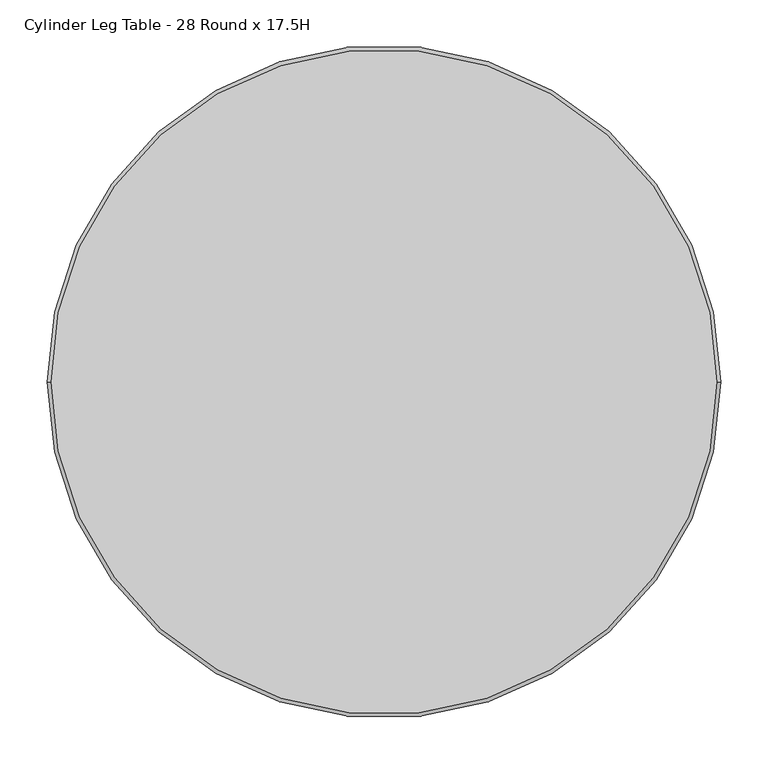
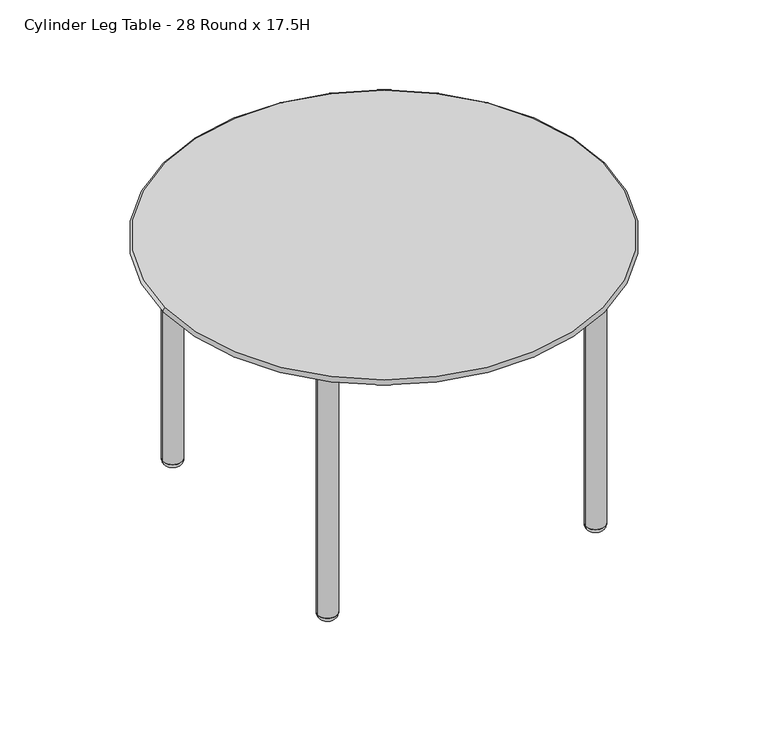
"""IFC4 building model written with IfcOpenShell, lengths in millimetres: furniture geometry, Integra - Coastal Collection - Coastal Metal Tables - Freestanding Table : Cylinder Leg Table - 28 Round x 17.5H."""

from ifc_helpers import new_model, si_unit, point, frame, frame_2d, origin, origin_2d, place, context, project, spatial, circle_curve, ellipse_curve, trimmed, segment, composite_curve, outline, extrude, source, transform, mapped, element, save
from ifc_brep_helpers import plane_surface, revolved_surface, advanced_brep


def cylinder_leg_table_28_round_x_17_5h_023fe422(model_context):
    return source(origin(), model_context, "Body", "SolidModel", [
        advanced_brep(
        [(-330.184015, 0.0, 431.7999939), (330.184015, 0.0, 431.7999939), (351.6380192, 0.0, 444.5), (-351.6380192, 0.0, 444.5), (353.3187402, 0.0, 436.9501969), (-353.3187402, 0.0, 436.9501969)],
        [
            (0, 1, circle_curve(frame((0.0, 0.0, 431.7999939), z_axis=(0.0, 0.0, -1.0), x_axis=(1.0, 0.0, 0.0)), 330.184015)),
            (1, 0, circle_curve(frame((0.0, 0.0, 431.7999939), z_axis=(0.0, 0.0, -1.0), x_axis=(-1.0, 0.0, 0.0)), 330.184015)),
            (2, 3, circle_curve(frame((0.0, 0.0, 444.5), z_axis=(0.0, 0.0, 1.0), x_axis=(1.0, 0.0, 0.0)), 351.6380192)),
            (3, 2, circle_curve(frame((0.0, 0.0, 444.5), z_axis=(0.0, 0.0, 1.0), x_axis=(-1.0, 0.0, 0.0)), 351.6380192)),
            (2, 4, circle_curve(frame((351.6380192, 0.0, 440.5380192), z_axis=(0.0, 1.0, 0.0), x_axis=(-1.0, 0.0, 0.0)), 3.9619808)),
            (4, 5, circle_curve(frame((0.0, 0.0, 436.9501969), z_axis=(0.0, 0.0, 1.0), x_axis=(1.0, 0.0, 0.0)), 353.3187402)),
            (5, 3, circle_curve(frame((-351.6380192, 0.0, 440.5380192), z_axis=(0.0, 1.0, 0.0), x_axis=(1.0, 0.0, 0.0)), 3.9619808)),
            (4, 1, circle_curve(frame((330.184015, 0.0, 486.3357186), z_axis=(0.0, 1.0, 0.0), x_axis=(-1.0, 0.0, 0.0)), 54.5357246)),
            (0, 5, circle_curve(frame((-330.184015, 0.0, 486.3357186), z_axis=(0.0, 1.0, 0.0), x_axis=(1.0, 0.0, 0.0)), 54.5357246)),
            (5, 4, circle_curve(frame((0.0, 0.0, 436.9501969), z_axis=(0.0, 0.0, 1.0), x_axis=(-1.0, 0.0, 0.0)), 353.3187402)),
        ],
        [
            plane_surface(frame((-25.4, 0.0, 431.7999939), z_axis=(0.0, 0.0, -1.0), x_axis=(0.0, 1.0, 0.0))),
            plane_surface(frame((-25.4, 0.0, 444.5), z_axis=(0.0, 0.0, 1.0), x_axis=(0.0, -1.0, 0.0))),
            revolved_surface(trimmed(ellipse_curve(frame((351.6380192, 0.0, 440.5380192), z_axis=(0.0, -1.0, 0.0), x_axis=(-1.0, 0.0, 0.0)), 3.9619808, 3.9619808), [point((353.3187402, 0.0, 436.9501969))], [point((351.6380192, 0.0, 444.5))], True, "CARTESIAN"), (0.0, 0.0, 444.5), (0.0, 0.0, 1.0)),
            revolved_surface(trimmed(ellipse_curve(frame((330.184015, 0.0, 486.3357186), z_axis=(0.0, -1.0, 0.0), x_axis=(-1.0, 0.0, 0.0)), 54.5357246, 54.5357246), [point((330.184015, 0.0, 431.7999939))], [point((353.3187402, 0.0, 436.9501969))], True, "CARTESIAN"), (0.0, 0.0, 444.5), (0.0, 0.0, 1.0)),
            revolved_surface(trimmed(ellipse_curve(frame((-351.6380192, 0.0, 440.5380192), z_axis=(0.0, 1.0, 0.0), x_axis=(1.0, 0.0, 0.0)), 3.9619808, 3.9619808), [point((-353.3187402, 0.0, 436.9501969))], [point((-351.6380192, 0.0, 444.5))], True, "CARTESIAN"), (0.0, 0.0, 444.5), (0.0, 0.0, 1.0)),
            revolved_surface(trimmed(ellipse_curve(frame((-330.184015, 0.0, 486.3357186), z_axis=(0.0, 1.0, 0.0), x_axis=(1.0, 0.0, 0.0)), 54.5357246, 54.5357246), [point((-330.184015, 0.0, 431.7999939))], [point((-353.3187402, 0.0, 436.9501969))], True, "CARTESIAN"), (0.0, 0.0, 444.5), (0.0, 0.0, 1.0)),
        ],
        [
            (0, [[1, 2]]),
            (1, [[3, 4]]),
            (2, [[-3, 5, 6, 7]]),
            (3, [[-6, 8, -1, 9]]),
            (4, [[-5, -4, -7, 10]]),
            (5, [[-8, -10, -9, -2]]),
        ],
    ),
        extrude(outline(composite_curve([segment(trimmed(circle_curve(origin_2d(), 330.2), [point((-330.2, 0.0))], [point((330.2, 0.0))], False, "CARTESIAN"), True, "CONTINUOUS"), segment(trimmed(circle_curve(origin_2d(), 330.2), [point((330.2, 0.0))], [point((-330.2, 0.0))], False, "CARTESIAN"), True, "CONTINUOUS")], self_intersect=False)), frame((0.0, 0.0, 425.4499939), z_axis=(0.0, 0.0, 1.0), x_axis=(1.0, 0.0, 0.0)), (0.0, 0.0, 1.0), 6.35),
        advanced_brep(
        [(-231.1705408, 215.5261469, 9.5239742), (-199.881753, 215.5261469, 9.5239742), (-215.5261469, 215.5261469, 9.5239742), (-221.6455408, 215.5261469, -0.0010258), (-209.406753, 215.5261469, -0.0010258), (-215.5261469, 215.5261469, -0.0010258)],
        [
            (0, 1, circle_curve(frame((-215.5261469, 215.5261469, 9.5239742), z_axis=(0.0, 0.0, 1.0), x_axis=(1.0, 0.0, 0.0)), 15.6443939)),
            (1, 2),
            (2, 0),
            (1, 0, circle_curve(frame((-215.5261469, 215.5261469, 9.5239742), z_axis=(0.0, 0.0, 1.0), x_axis=(1.0, 0.0, 0.0)), 15.6443939)),
            (3, 4, circle_curve(frame((-215.5261469, 215.5261469, -0.0010258), z_axis=(0.0, 0.0, 1.0), x_axis=(1.0, 0.0, 0.0)), 6.1193939)),
            (4, 1, circle_curve(frame((-209.406753, 215.5261469, 9.5239742), z_axis=(0.0, -1.0, 0.0), x_axis=(1.0, 0.0, 0.0)), 9.525)),
            (0, 3, circle_curve(frame((-221.6455408, 215.5261469, 9.5239742), z_axis=(0.0, -1.0, 0.0), x_axis=(-1.0, 0.0, 0.0)), 9.525)),
            (4, 3, circle_curve(frame((-215.5261469, 215.5261469, -0.0010258), z_axis=(0.0, 0.0, 1.0), x_axis=(1.0, 0.0, 0.0)), 6.1193939)),
            (5, 4),
            (3, 5),
        ],
        [
            plane_surface(frame((-215.5261469, 215.5261469, 9.5239742), z_axis=(0.0, 0.0, 1.0), x_axis=(1.0, 0.0, 0.0))),
            revolved_surface(trimmed(ellipse_curve(frame((-209.406753, 215.5261469, 9.5239742), z_axis=(0.0, 1.0, 0.0), x_axis=(1.0, 0.0, 0.0)), 9.525, 9.525), [point((-199.881753, 215.5261469, 9.5239742))], [point((-209.406753, 215.5261469, -0.0010258))], True, "CARTESIAN"), (-215.5261469, 215.5261469, -0.0010258), (0.0, 0.0, -1.0)),
            plane_surface(frame((-215.5261469, 215.5261469, -0.0010258), z_axis=(0.0, 0.0, -1.0), x_axis=(1.0, 0.0, 0.0))),
        ],
        [
            (0, [[1, 2, 3]]),
            (0, [[4, -3, -2]]),
            (1, [[5, 6, -1, 7]]),
            (1, [[8, -7, -4, -6]]),
            (2, [[9, -5, 10]]),
            (2, [[-10, -8, -9]]),
        ],
    ),
        advanced_brep(
        [(-215.5261469, -215.5261469, 9.5239742), (-199.881753, -215.5261469, 9.5239742), (-231.1705408, -215.5261469, 9.5239742), (-209.406753, -215.5261469, -0.0010258), (-221.6455408, -215.5261469, -0.0010258), (-215.5261469, -215.5261469, -0.0010258)],
        [
            (0, 1),
            (1, 2, circle_curve(frame((-215.5261469, -215.5261469, 9.5239742), z_axis=(0.0, 0.0, 1.0), x_axis=(1.0, 0.0, 0.0)), 15.6443939)),
            (2, 0),
            (2, 1, circle_curve(frame((-215.5261469, -215.5261469, 9.5239742), z_axis=(0.0, 0.0, 1.0), x_axis=(1.0, 0.0, 0.0)), 15.6443939)),
            (1, 3, circle_curve(frame((-209.406753, -215.5261469, 9.5239742), z_axis=(0.0, 1.0, 0.0), x_axis=(1.0, 0.0, 0.0)), 9.525)),
            (3, 4, circle_curve(frame((-215.5261469, -215.5261469, -0.0010258), z_axis=(0.0, 0.0, 1.0), x_axis=(1.0, 0.0, 0.0)), 6.1193939)),
            (4, 2, circle_curve(frame((-221.6455408, -215.5261469, 9.5239742), z_axis=(0.0, 1.0, 0.0), x_axis=(-1.0, 0.0, 0.0)), 9.525)),
            (4, 3, circle_curve(frame((-215.5261469, -215.5261469, -0.0010258), z_axis=(0.0, 0.0, 1.0), x_axis=(1.0, 0.0, 0.0)), 6.1193939)),
            (3, 5),
            (5, 4),
        ],
        [
            plane_surface(frame((-215.5261469, -215.5261469, 9.5239742), z_axis=(0.0, 0.0, 1.0), x_axis=(1.0, 0.0, 0.0))),
            revolved_surface(trimmed(ellipse_curve(frame((-209.406753, -215.5261469, 9.5239742), z_axis=(0.0, -1.0, 0.0), x_axis=(1.0, 0.0, 0.0)), 9.525, 9.525), [point((-209.406753, -215.5261469, -0.0010258))], [point((-199.881753, -215.5261469, 9.5239742))], True, "CARTESIAN"), (-215.5261469, -215.5261469, -0.0010258), (0.0, 0.0, 1.0)),
            plane_surface(frame((-215.5261469, -215.5261469, -0.0010258), z_axis=(0.0, 0.0, -1.0), x_axis=(1.0, 0.0, 0.0))),
        ],
        [
            (0, [[1, 2, 3]]),
            (0, [[-3, 4, -1]]),
            (1, [[-2, 5, 6, 7]]),
            (1, [[-4, -7, 8, -5]]),
            (2, [[-6, 9, 10]]),
            (2, [[-8, -10, -9]]),
        ],
    ),
        advanced_brep(
        [(215.5261469, 215.5261469, 9.5239742), (199.881753, 215.5261469, 9.5239742), (231.1705408, 215.5261469, 9.5239742), (209.406753, 215.5261469, -0.0010258), (221.6455408, 215.5261469, -0.0010258), (215.5261469, 215.5261469, -0.0010258)],
        [
            (0, 1),
            (1, 2, circle_curve(frame((215.5261469, 215.5261469, 9.5239742), z_axis=(0.0, 0.0, 1.0), x_axis=(-1.0, 0.0, 0.0)), 15.6443939)),
            (2, 0),
            (2, 1, circle_curve(frame((215.5261469, 215.5261469, 9.5239742), z_axis=(0.0, 0.0, 1.0), x_axis=(-1.0, 0.0, 0.0)), 15.6443939)),
            (1, 3, circle_curve(frame((209.406753, 215.5261469, 9.5239742), z_axis=(0.0, -1.0, 0.0), x_axis=(-1.0, 0.0, 0.0)), 9.525)),
            (3, 4, circle_curve(frame((215.5261469, 215.5261469, -0.0010258), z_axis=(0.0, 0.0, 1.0), x_axis=(-1.0, 0.0, 0.0)), 6.1193939)),
            (4, 2, circle_curve(frame((221.6455408, 215.5261469, 9.5239742), z_axis=(0.0, -1.0, 0.0), x_axis=(1.0, 0.0, 0.0)), 9.525)),
            (4, 3, circle_curve(frame((215.5261469, 215.5261469, -0.0010258), z_axis=(0.0, 0.0, 1.0), x_axis=(-1.0, 0.0, 0.0)), 6.1193939)),
            (3, 5),
            (5, 4),
        ],
        [
            plane_surface(frame((215.5261469, 215.5261469, 9.5239742), z_axis=(0.0, 0.0, 1.0), x_axis=(-1.0, 0.0, 0.0))),
            revolved_surface(trimmed(ellipse_curve(frame((209.406753, 215.5261469, 9.5239742), z_axis=(0.0, 1.0, 0.0), x_axis=(-1.0, 0.0, 0.0)), 9.525, 9.525), [point((209.406753, 215.5261469, -0.0010258))], [point((199.881753, 215.5261469, 9.5239742))], True, "CARTESIAN"), (215.5261469, 215.5261469, -0.0010258), (0.0, 0.0, 1.0)),
            plane_surface(frame((215.5261469, 215.5261469, -0.0010258), z_axis=(0.0, 0.0, -1.0), x_axis=(-1.0, 0.0, 0.0))),
        ],
        [
            (0, [[1, 2, 3]]),
            (0, [[-3, 4, -1]]),
            (1, [[-2, 5, 6, 7]]),
            (1, [[-4, -7, 8, -5]]),
            (2, [[-6, 9, 10]]),
            (2, [[-8, -10, -9]]),
        ],
    ),
        advanced_brep(
        [(231.1705408, -215.5261469, 9.5239742), (199.881753, -215.5261469, 9.5239742), (215.5261469, -215.5261469, 9.5239742), (221.6455408, -215.5261469, -0.0010258), (209.406753, -215.5261469, -0.0010258), (215.5261469, -215.5261469, -0.0010258)],
        [
            (0, 1, circle_curve(frame((215.5261469, -215.5261469, 9.5239742), z_axis=(0.0, 0.0, 1.0), x_axis=(-1.0, 0.0, 0.0)), 15.6443939)),
            (1, 2),
            (2, 0),
            (1, 0, circle_curve(frame((215.5261469, -215.5261469, 9.5239742), z_axis=(0.0, 0.0, 1.0), x_axis=(-1.0, 0.0, 0.0)), 15.6443939)),
            (3, 4, circle_curve(frame((215.5261469, -215.5261469, -0.0010258), z_axis=(0.0, 0.0, 1.0), x_axis=(-1.0, 0.0, 0.0)), 6.1193939)),
            (4, 1, circle_curve(frame((209.406753, -215.5261469, 9.5239742), z_axis=(0.0, 1.0, 0.0), x_axis=(-1.0, 0.0, 0.0)), 9.525)),
            (0, 3, circle_curve(frame((221.6455408, -215.5261469, 9.5239742), z_axis=(0.0, 1.0, 0.0), x_axis=(1.0, 0.0, 0.0)), 9.525)),
            (4, 3, circle_curve(frame((215.5261469, -215.5261469, -0.0010258), z_axis=(0.0, 0.0, 1.0), x_axis=(-1.0, 0.0, 0.0)), 6.1193939)),
            (5, 4),
            (3, 5),
        ],
        [
            plane_surface(frame((215.5261469, -215.5261469, 9.5239742), z_axis=(0.0, 0.0, 1.0), x_axis=(-1.0, 0.0, 0.0))),
            revolved_surface(trimmed(ellipse_curve(frame((209.406753, -215.5261469, 9.5239742), z_axis=(0.0, -1.0, 0.0), x_axis=(-1.0, 0.0, 0.0)), 9.525, 9.525), [point((199.881753, -215.5261469, 9.5239742))], [point((209.406753, -215.5261469, -0.0010258))], True, "CARTESIAN"), (215.5261469, -215.5261469, -0.0010258), (0.0, 0.0, -1.0)),
            plane_surface(frame((215.5261469, -215.5261469, -0.0010258), z_axis=(0.0, 0.0, -1.0), x_axis=(-1.0, 0.0, 0.0))),
        ],
        [
            (0, [[1, 2, 3]]),
            (0, [[4, -3, -2]]),
            (1, [[5, 6, -1, 7]]),
            (1, [[8, -7, -4, -6]]),
            (2, [[9, -5, 10]]),
            (2, [[-10, -8, -9]]),
        ],
    ),
        extrude(outline(composite_curve([segment(trimmed(circle_curve(frame_2d((215.5261469, 215.5261469)), 15.6443939), [point((199.881753, 215.5261469))], [point((231.1705408, 215.5261469))], False, "CARTESIAN"), True, "CONTINUOUS"), segment(trimmed(circle_curve(frame_2d((215.5261469, 215.5261469)), 15.6443939), [point((231.1705408, 215.5261469))], [point((199.881753, 215.5261469))], False, "CARTESIAN"), True, "CONTINUOUS")], self_intersect=False)), frame((0.0, 0.0, 9.5366915), z_axis=(0.0, 0.0, 1.0), x_axis=(1.0, 0.0, 0.0)), (0.0, 0.0, 1.0), 415.9133025),
        extrude(outline(composite_curve([segment(trimmed(circle_curve(frame_2d((215.5261469, -215.5261469)), 15.6443939), [point((199.881753, -215.5261469))], [point((231.1705408, -215.5261469))], False, "CARTESIAN"), True, "CONTINUOUS"), segment(trimmed(circle_curve(frame_2d((215.5261469, -215.5261469)), 15.6443939), [point((231.1705408, -215.5261469))], [point((199.881753, -215.5261469))], False, "CARTESIAN"), True, "CONTINUOUS")], self_intersect=False)), frame((0.0, 0.0, 9.5366915), z_axis=(0.0, 0.0, 1.0), x_axis=(1.0, 0.0, 0.0)), (0.0, 0.0, 1.0), 415.9133025),
        extrude(outline(composite_curve([segment(trimmed(circle_curve(frame_2d((-215.5261469, 215.5261469)), 15.6443939), [point((-231.1705408, 215.5261469))], [point((-199.881753, 215.5261469))], False, "CARTESIAN"), True, "CONTINUOUS"), segment(trimmed(circle_curve(frame_2d((-215.5261469, 215.5261469)), 15.6443939), [point((-199.881753, 215.5261469))], [point((-231.1705408, 215.5261469))], False, "CARTESIAN"), True, "CONTINUOUS")], self_intersect=False)), frame((0.0, 0.0, 9.5366915), z_axis=(0.0, 0.0, 1.0), x_axis=(1.0, 0.0, 0.0)), (0.0, 0.0, 1.0), 415.9133025),
        extrude(outline(composite_curve([segment(trimmed(circle_curve(frame_2d((-215.5261469, -215.5261469)), 15.6443939), [point((-231.1705408, -215.5261469))], [point((-199.881753, -215.5261469))], False, "CARTESIAN"), True, "CONTINUOUS"), segment(trimmed(circle_curve(frame_2d((-215.5261469, -215.5261469)), 15.6443939), [point((-199.881753, -215.5261469))], [point((-231.1705408, -215.5261469))], False, "CARTESIAN"), True, "CONTINUOUS")], self_intersect=False)), frame((0.0, 0.0, 9.5366915), z_axis=(0.0, 0.0, 1.0), x_axis=(1.0, 0.0, 0.0)), (0.0, 0.0, 1.0), 415.9133025),
    ])


if __name__ == "__main__":
    model = new_model("IFC4")
    model_context = context("Model", 3, world=origin())
    ifc_project = project(units=[si_unit("LENGTHUNIT", "METRE", prefix="MILLI")], contexts=[model_context])
    site = spatial("IfcSite", under=ifc_project)
    building = spatial("IfcBuilding", under=site)
    placement = place(None, origin())
    cylinder_leg_table_28_round_x_17_5h_shape = cylinder_leg_table_28_round_x_17_5h_023fe422(model_context)
    element("IfcFurniture", 1, ObjectType="Integra - Coastal Collection - Coastal Metal Tables - Freestanding Table : Cylinder Leg Table - 28 Round x 17.5H", at=placement, inside=building, context=model_context, shape_type="MappedRepresentation", body=[
        mapped(cylinder_leg_table_28_round_x_17_5h_shape, transform((0.0, 0.0, 0.0), x_axis=(1.0, 0.0, 0.0), y_axis=(0.0, 1.0, 0.0), z_axis=(0.0, 0.0, 1.0))),
    ])
    save(model, "model.ifc")
